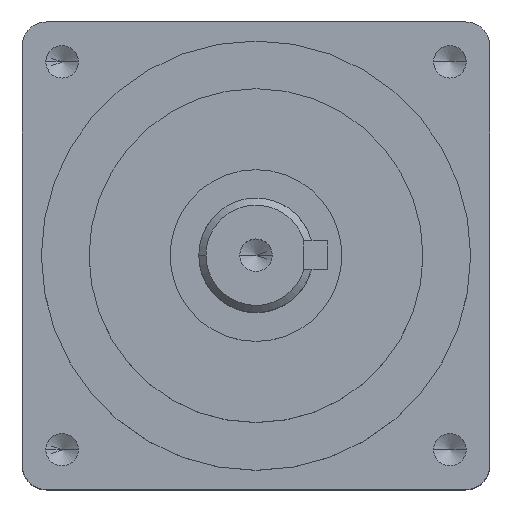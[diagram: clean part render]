
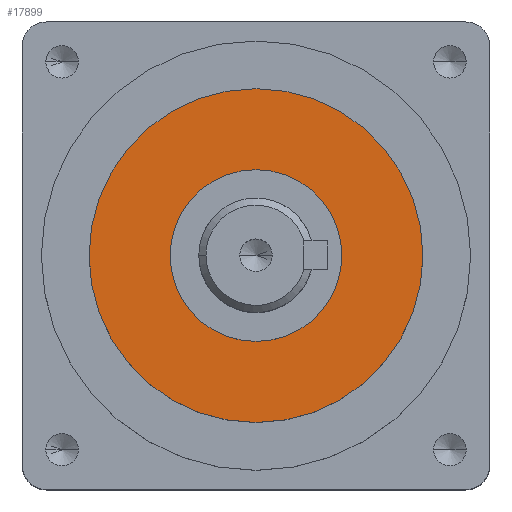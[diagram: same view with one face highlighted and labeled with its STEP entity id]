
A CAD part, top view. The second image highlights one B-rep face of the part: STEP entity #17899.
In plain terms, the highlighted planar face has unit normal (0, 0, 1).
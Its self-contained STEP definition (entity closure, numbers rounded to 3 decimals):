
#74 = CIRCLE ( 'NONE', #22876, 35. ) ;
#563 = ORIENTED_EDGE ( 'NONE', *, *, #29966, .T. ) ;
#1436 = DIRECTION ( 'NONE',  ( -1., 0., 0. ) ) ;
#3163 = CARTESIAN_POINT ( 'NONE',  ( 0., 0., 15. ) ) ;
#3912 = VERTEX_POINT ( 'NONE', #14125 ) ;
#4364 = CIRCLE ( 'NONE', #5026, 18. ) ;
#4564 = EDGE_LOOP ( 'NONE', ( #8108, #563 ) ) ;
#5026 = AXIS2_PLACEMENT_3D ( 'NONE', #31839, #16829, #1436 ) ;
#5587 = AXIS2_PLACEMENT_3D ( 'NONE', #10479, #28122, #12999 ) ;
#5754 = DIRECTION ( 'NONE',  ( -1., 0., 0. ) ) ;
#6189 = ORIENTED_EDGE ( 'NONE', *, *, #30820, .F. ) ;
#6376 = AXIS2_PLACEMENT_3D ( 'NONE', #7064, #24731, #9632 ) ;
#6803 = CARTESIAN_POINT ( 'NONE',  ( 18., 0., 15. ) ) ;
#7064 = CARTESIAN_POINT ( 'NONE',  ( 0., 0., 15. ) ) ;
#8108 = ORIENTED_EDGE ( 'NONE', *, *, #11399, .T. ) ;
#9632 = DIRECTION ( 'NONE',  ( -1., 0., 0. ) ) ;
#10479 = CARTESIAN_POINT ( 'NONE',  ( 0., 0., 15. ) ) ;
#10740 = DIRECTION ( 'NONE',  ( 0., 0., 1. ) ) ;
#11268 = CARTESIAN_POINT ( 'NONE',  ( 35., 0., 15. ) ) ;
#11399 = EDGE_CURVE ( 'NONE', #3912, #25579, #20274, .T. ) ;
#11940 = FACE_BOUND ( 'NONE', #4564, .T. ) ;
#12999 = DIRECTION ( 'NONE',  ( -1., 0., 0. ) ) ;
#14125 = CARTESIAN_POINT ( 'NONE',  ( -18., 0., 15. ) ) ;
#16829 = DIRECTION ( 'NONE',  ( 0., 0., -1. ) ) ;
#17899 = ADVANCED_FACE ( 'NONE', ( #11940, #18665 ), #28492, .T. ) ;
#18665 = FACE_OUTER_BOUND ( 'NONE', #21072, .T. ) ;
#20274 = CIRCLE ( 'NONE', #5587, 18. ) ;
#20999 = DIRECTION ( 'NONE',  ( 0., 0., -1. ) ) ;
#21072 = EDGE_LOOP ( 'NONE', ( #30933, #6189 ) ) ;
#22876 = AXIS2_PLACEMENT_3D ( 'NONE', #3163, #20999, #5754 ) ;
#23720 = CARTESIAN_POINT ( 'NONE',  ( -35., 0., 15. ) ) ;
#24083 = EDGE_CURVE ( 'NONE', #30699, #27593, #74, .T. ) ;
#24731 = DIRECTION ( 'NONE',  ( 0., 0., -1. ) ) ;
#25324 = CIRCLE ( 'NONE', #6376, 35. ) ;
#25579 = VERTEX_POINT ( 'NONE', #6803 ) ;
#25956 = CARTESIAN_POINT ( 'NONE',  ( 0., 0., 15. ) ) ;
#25967 = AXIS2_PLACEMENT_3D ( 'NONE', #25956, #10740, #30995 ) ;
#27593 = VERTEX_POINT ( 'NONE', #11268 ) ;
#28122 = DIRECTION ( 'NONE',  ( 0., 0., -1. ) ) ;
#28492 = PLANE ( 'NONE',  #25967 ) ;
#29966 = EDGE_CURVE ( 'NONE', #25579, #3912, #4364, .T. ) ;
#30699 = VERTEX_POINT ( 'NONE', #23720 ) ;
#30820 = EDGE_CURVE ( 'NONE', #27593, #30699, #25324, .T. ) ;
#30933 = ORIENTED_EDGE ( 'NONE', *, *, #24083, .F. ) ;
#30995 = DIRECTION ( 'NONE',  ( 1., 0., 0. ) ) ;
#31839 = CARTESIAN_POINT ( 'NONE',  ( 0., 0., 15. ) ) ;
